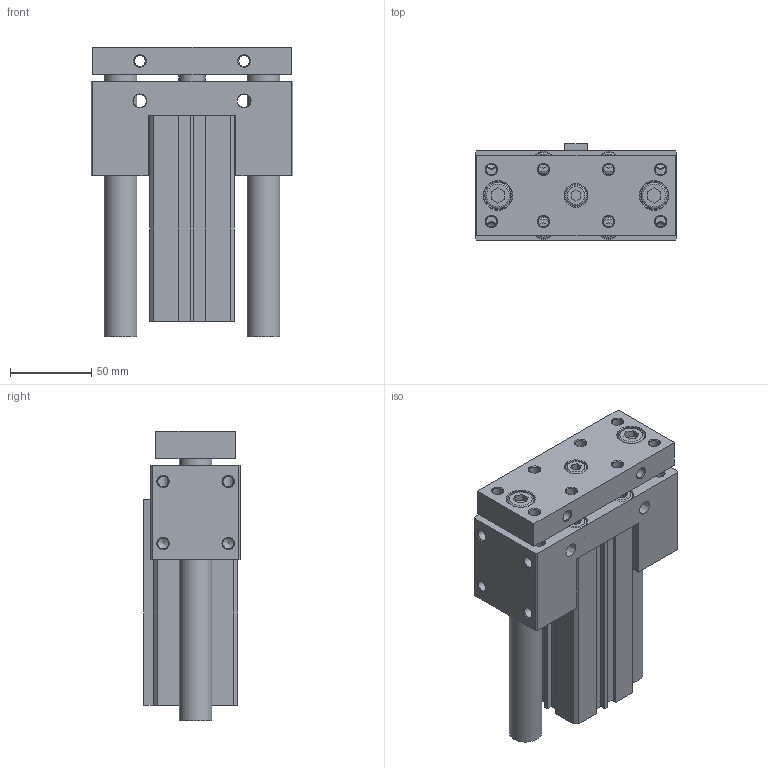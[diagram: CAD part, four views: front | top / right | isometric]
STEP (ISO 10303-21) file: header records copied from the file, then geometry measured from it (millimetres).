
FILE_DESCRIPTION((''),'2;1');
FILE_NAME('I:\3D電子目錄\氣缸\JCB\JCB\JCB40\JCB40x100.stp','2007-08-23T20:10:52',('Administrator'),(''),'Autodesk Inventor 11','Autodesk Inventor 11','');
FILE_SCHEMA(('AUTOMOTIVE_DESIGN { 1 0 10303 214 1 1 1 1 }'));
Length unit declared in the file: millimetre
Products named in the file (1): JCB40
Bounding box: 124 x 59.5 x 178 mm (x, y, z)
Volume: 717613.9 mm3; surface area: 148910.4 mm2
Topology: 3 solids, 3 shells, 303 faces, 731 edges, 473 vertices
Faces by surface type: plane 163, cylinder 52, cone 47, bspline 33, torus 8
Full cylindrical faces by diameter (mm): 2.2 x2, 6.647 x4, 6.8 x4, 10 x8, 13 x5, 14 x5, 16 x3, 17 x1, 17.5 x2, 20 x2, 23 x2, 28 x1, 29 x1, 42 x4, 44.5 x2
Entity records: 8528 total; most frequent: CARTESIAN_POINT 2090, DIRECTION 1302, ORIENTED_EDGE 1114, EDGE_CURVE 557, EDGE_LOOP 522, AXIS2_PLACEMENT_3D 480, VERTEX_POINT 435, VECTOR 342
